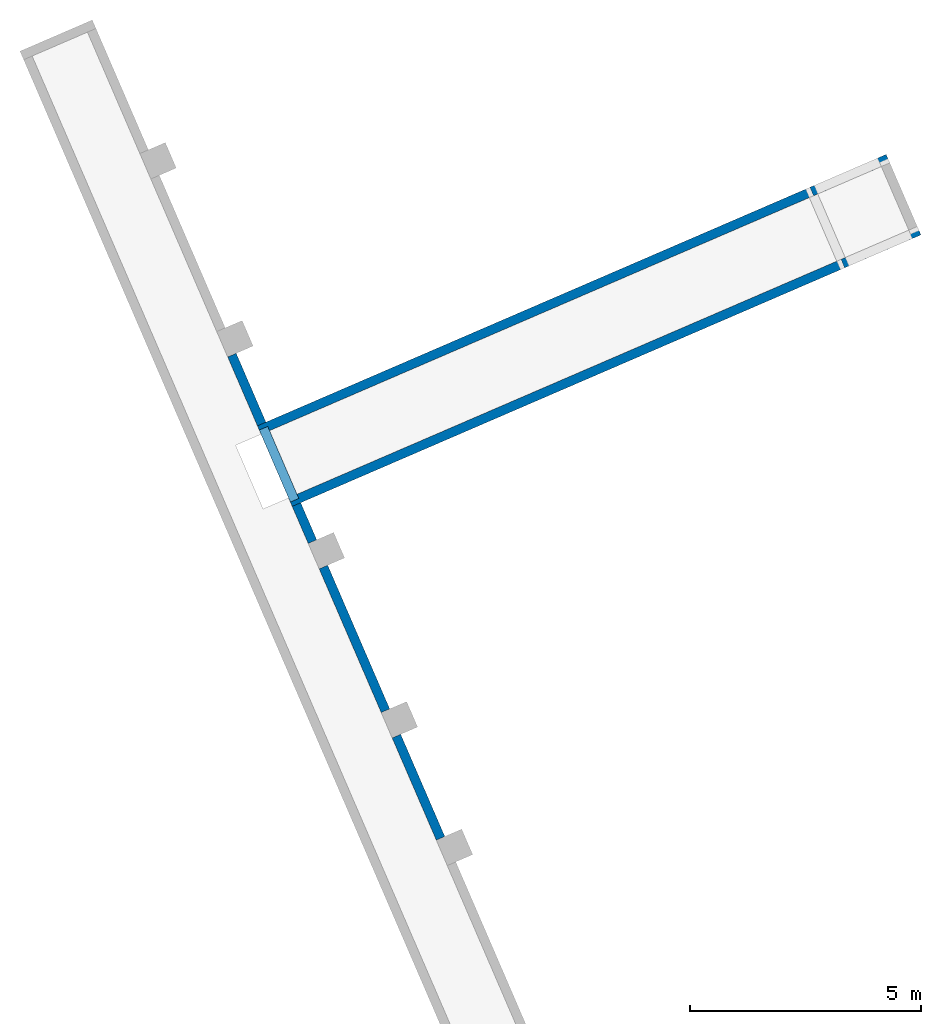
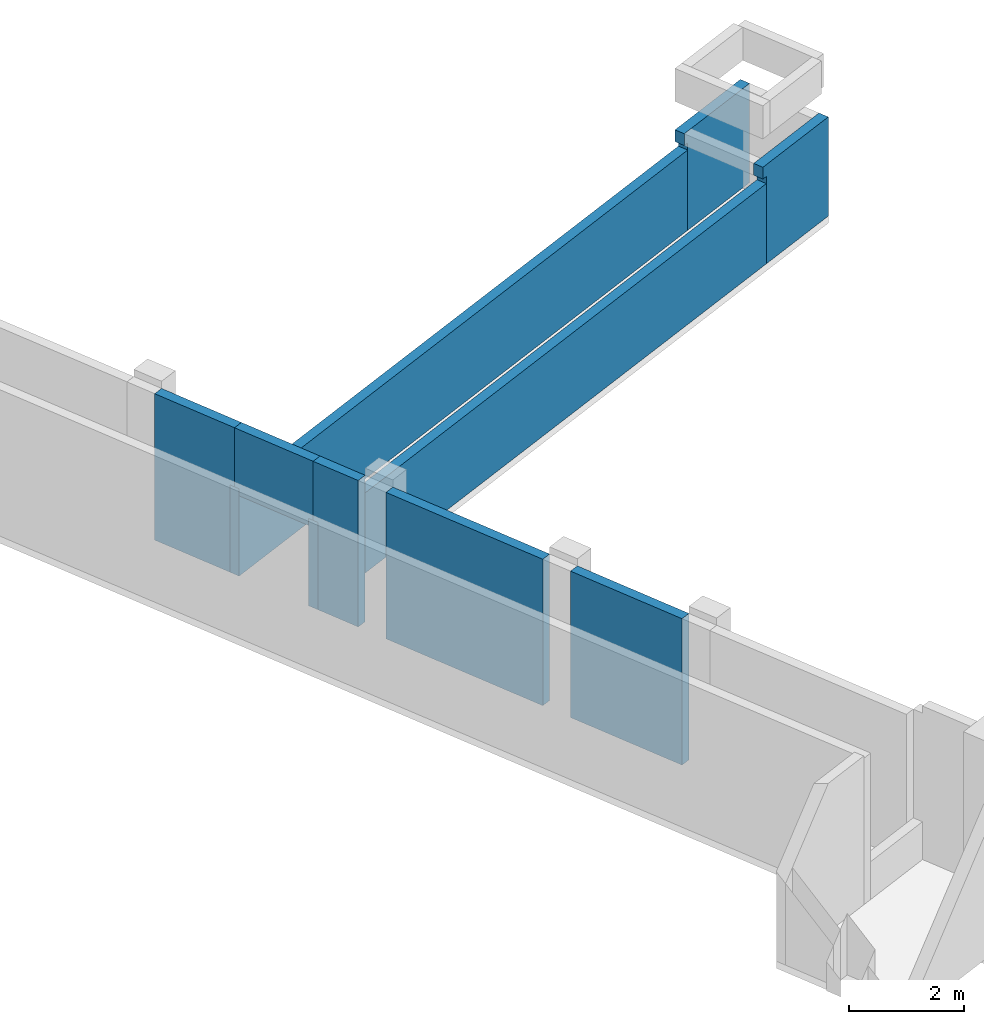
# One storey, part 2 of 2: 9 walls.
"""IFC4 building model written with IfcOpenShell, lengths in metres."""

from ifc_helpers import new_model, entity, si_unit, converted_unit, derived_unit, direction, frame, origin, place, context, subcontext, project, spatial, polygons, material, type_object, element, save


model = new_model("IFC4")

# Units and contexts
model_context = context("Model", 3, precision=1e-05, world=origin(), true_north=direction((6.123233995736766e-17, 1.0)))
body_context = subcontext(model_context, "Body", "Model", "MODEL_VIEW")
ifc_project = project(units=[si_unit("LENGTHUNIT", "METRE"), si_unit("AREAUNIT", "SQUARE_METRE"), si_unit("VOLUMEUNIT", "CUBIC_METRE"), converted_unit("PLANEANGLEUNIT", "DEGREE", entity("IfcPlaneAngleMeasure", 0.017453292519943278), si_unit("PLANEANGLEUNIT", "RADIAN"), dimensions=[0, 0, 0, 0, 0, 0, 0]), derived_unit("THERMALTRANSMITTANCEUNIT", [(si_unit("MASSUNIT", "GRAM", prefix="KILO"), 1), (si_unit("THERMODYNAMICTEMPERATUREUNIT", "KELVIN"), -1), (si_unit("TIMEUNIT", "SECOND"), -3)]), derived_unit("USERDEFINED", [(si_unit("MASSUNIT", "GRAM", prefix="KILO"), 1), (si_unit("THERMODYNAMICTEMPERATUREUNIT", "KELVIN"), -1), (si_unit("TIMEUNIT", "SECOND"), -2)]), derived_unit("THERMALRESISTANCEUNIT", [(si_unit("MASSUNIT", "GRAM", prefix="KILO"), -1), (si_unit("TIMEUNIT", "SECOND"), 3), (si_unit("THERMODYNAMICTEMPERATUREUNIT", "KELVIN"), 1)]), si_unit("MASSUNIT", "GRAM", prefix="KILO"), derived_unit("MOMENTOFINERTIAUNIT", [(si_unit("LENGTHUNIT", "METRE"), 4)]), derived_unit("LINEARFORCEUNIT", [(si_unit("MASSUNIT", "GRAM", prefix="KILO"), 1), (si_unit("TIMEUNIT", "SECOND"), -2)]), derived_unit("WARPINGCONSTANTUNIT", [(si_unit("LENGTHUNIT", "METRE"), 6)])], contexts=[model_context])

# Site, building, storey
site_placement = place(None, origin())
site = spatial("IfcSite", under=ifc_project, at=site_placement, Name="Default", CompositionType="ELEMENT")
building_placement = place(site_placement, frame((-21.752541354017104, -73.50235179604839, 317.2999999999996), z_axis=(0.0, 0.0, 1.0), x_axis=(-0.39637753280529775, 0.918087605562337, 0.0)))
building = spatial("IfcBuilding", under=site, at=building_placement, Name="CESFAM Coyhaique", CompositionType="ELEMENT")
storey_placement = place(building_placement, frame((0.0, 0.0, -3.7999999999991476)))
storey = spatial("IfcBuildingStorey", under=building, at=storey_placement, Name="Subterráneo 1", CompositionType="ELEMENT", Elevation=-3.7999999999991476)

# Walls
ifc_material = material(Name="HA")
wall_type = type_object("IfcWallType", Name="Basic Wall:Contención-HA_200mm", PredefinedType="STANDARD")
wall_1_placement = place(storey_placement, frame((2.5998933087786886, 2.1382581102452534, 0.0), z_axis=(0.0, 0.0, 1.0), x_axis=(0.0, -1.0, 0.0)))
element("IfcWall", 1, at=wall_1_placement, inside=storey, type_object=wall_type, material=ifc_material, Name="Basic Wall:Contención-HA_200mm", ObjectType="Basic Wall:Contención-HA_200mm", PredefinedType="NOTDEFINED", context=body_context, shape_type="Tessellation", body=[
    polygons([(0.0, -0.09999999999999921, -5.414335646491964e-16), (0.20000000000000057, -0.09999999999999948, -5.414335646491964e-16), (13.034875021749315, -0.09999999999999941, -5.414335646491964e-16), (13.034875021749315, -0.09999999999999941, 1.7), (0.19999999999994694, -0.10000000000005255, 1.7), (0.19999999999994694, -0.09999999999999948, 1.8499999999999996), (1.0828671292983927e-15, -0.09999999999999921, 1.8499999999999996), (13.034875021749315, 0.1000000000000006, -5.414335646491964e-16), (1.3535839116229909e-15, 0.1000000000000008, -5.414335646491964e-16), (1.0828671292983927e-15, 0.10000000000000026, 1.6999999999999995), (1.3535839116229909e-15, 0.1000000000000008, 1.8499999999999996), (0.19999999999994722, 0.10000000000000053, 1.8499999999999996), (0.19999999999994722, 0.10000000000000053, 1.7), (13.034875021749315, 0.1000000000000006, 1.7), (1.0828671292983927e-15, 5.1295095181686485e-15, 1.8499999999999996)], [[[1, 2, 3, 4, 5, 6, 7]], [[8, 9, 10, 11, 12, 13, 14]], [[3, 2, 1, 9, 8]], [[3, 8, 14, 4]], [[11, 15, 7, 6, 12]], [[7, 15, 11, 10, 9, 1]], [[13, 5, 4, 14]], [[5, 13, 12, 6]]], closed=True),
])
wall_2_placement = place(storey_placement, frame((4.299893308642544, 2.138258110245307, 0.0), z_axis=(0.0, 0.0, 1.0), x_axis=(0.0, -1.0, 0.0)))
element("IfcWall", 2, at=wall_2_placement, inside=storey, type_object=wall_type, material=ifc_material, Name="Basic Wall:Contención-HA_200mm", ObjectType="Basic Wall:Contención-HA_200mm", PredefinedType="NOTDEFINED", context=body_context, shape_type="Tessellation", body=[
    polygons([(-2.707167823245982e-16, -0.10000000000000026, -5.414335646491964e-16), (13.034875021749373, -0.1000000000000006, -5.414335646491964e-16), (13.034875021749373, -0.1000000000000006, 1.7), (0.20000000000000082, -0.10000000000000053, 1.7), (0.20000000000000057, -0.10000000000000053, 1.8499999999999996), (5.414335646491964e-16, -0.10000000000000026, 1.8499999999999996), (5.414335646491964e-16, -0.10000000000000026, 1.6999999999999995), (13.034875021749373, 0.09999999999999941, -5.414335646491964e-16), (0.2, 0.09999999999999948, -5.414335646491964e-16), (2.707167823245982e-16, 0.09999999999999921, -5.414335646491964e-16), (2.707167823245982e-16, 0.09999999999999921, 1.8499999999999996), (0.2000000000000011, 0.09999999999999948, 1.8499999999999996), (0.2000000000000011, 0.09999999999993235, 1.7), (13.034875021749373, 0.09999999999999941, 1.7), (5.414335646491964e-16, 2.8482612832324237e-16, 1.8499999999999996)], [[[1, 2, 3, 4, 5, 6, 7]], [[8, 9, 10, 11, 12, 13, 14]], [[2, 1, 10, 9, 8]], [[2, 8, 14, 3]], [[11, 15, 6, 5, 12]], [[6, 15, 11, 10, 1, 7]], [[13, 4, 3, 14]], [[4, 13, 12, 5]]], closed=True),
])
wall_3_placement = place(storey_placement, frame((4.299893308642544, 2.0382581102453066, 0.0)))
element("IfcWall", 3, at=wall_3_placement, inside=storey, type_object=wall_type, material=ifc_material, Name="Basic Wall:Contención-HA_200mm", ObjectType="Basic Wall:Contención-HA_200mm", PredefinedType="NOTDEFINED", context=body_context, shape_type="Tessellation", body=[
    polygons([(0.09999999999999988, -0.10000000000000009, 1.8500000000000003), (0.09999999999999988, -0.09999999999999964, 0.0), (1.7250000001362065, -0.09999999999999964, 0.0), (1.7250000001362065, -0.09999999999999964, 3.1000000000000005), (2.354192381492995e-16, -0.09999999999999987, 3.1000000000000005), (2.354192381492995e-16, -0.09999999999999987, 1.8500000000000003), (0.09999999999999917, 0.10000000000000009, 0.0), (0.10000000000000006, 0.10000000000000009, 1.8500000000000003), (4.1471290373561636e-16, 0.10000000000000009, 1.8500000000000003), (4.1471290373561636e-16, 0.10000000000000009, 3.1000000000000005), (1.7250000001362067, 0.10000000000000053, 3.1000000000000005), (1.7250000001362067, 0.10000000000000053, 0.0)], [[[1, 2, 3, 4, 5, 6]], [[7, 8, 9, 10, 11, 12]], [[3, 2, 7, 12]], [[4, 3, 12, 11]], [[5, 4, 11, 10]], [[6, 5, 10, 9]], [[6, 9, 8, 1]], [[1, 8, 7, 2]]], closed=True),
])
wall_4_placement = place(storey_placement, frame((2.599893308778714, -10.796616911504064, 0.0), z_axis=(0.0, 0.0, 1.0), x_axis=(0.0, -1.0, 0.0)))
element("IfcWall", 4, at=wall_4_placement, inside=storey, type_object=wall_type, material=ifc_material, Name="Basic Wall:Contención-HA_200mm", ObjectType="Basic Wall:Contención-HA_200mm", PredefinedType="NOTDEFINED", context=body_context, shape_type="Tessellation", body=[
    polygons([(0.09999999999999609, -0.10000000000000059, 0.0), (1.9001698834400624, -0.10000000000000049, 0.0), (1.900169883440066, -0.10000000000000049, 2.1000000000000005), (0.0, -0.10000000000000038, 2.1000000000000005), (0.0, -0.10000000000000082, 1.8500000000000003), (0.09999999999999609, -0.10000000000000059, 1.8500000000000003), (0.09999999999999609, 0.09999999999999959, 0.0), (0.09999999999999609, 0.09999999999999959, 1.8500000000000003), (0.0, 0.09999999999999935, 1.8500000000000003), (0.0, 0.0999999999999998, 2.1000000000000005), (0.1999999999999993, 0.09999999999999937, 2.1000000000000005), (1.700169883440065, 0.09999999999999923, 2.1000000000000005), (1.900169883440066, 0.09999999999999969, 2.1000000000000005), (1.900169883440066, 0.09999999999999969, 0.0), (1.700169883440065, 0.09999999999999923, 0.0)], [[[1, 2, 3, 4, 5, 6]], [[7, 8, 9, 10, 11, 12, 13, 14, 15]], [[2, 1, 7, 15, 14]], [[4, 3, 13, 12, 11, 10]], [[3, 2, 14, 13]], [[1, 6, 8, 7]], [[5, 9, 8, 6]], [[5, 4, 10, 9]]], closed=True),
])
wall_5_placement = place(storey_placement, frame((4.2998933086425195, -10.796616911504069, 0.0), z_axis=(0.0, 0.0, 1.0), x_axis=(0.0, -1.0, 0.0)))
element("IfcWall", 5, at=wall_5_placement, inside=storey, type_object=wall_type, material=ifc_material, Name="Basic Wall:Contención-HA_200mm", ObjectType="Basic Wall:Contención-HA_200mm", PredefinedType="NOTDEFINED", context=body_context, shape_type="Tessellation", body=[
    polygons([(0.09999999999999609, -0.10000000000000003, 0.0), (1.700169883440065, -0.09999999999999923, 0.0), (1.9001698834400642, -0.09999999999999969, 0.0), (1.9001698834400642, -0.09999999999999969, 2.0999999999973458), (1.700169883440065, -0.09999999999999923, 2.0999999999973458), (0.1999999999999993, -0.09999999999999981, 2.0999999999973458), (-1.7763568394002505e-15, -0.10000000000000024, 2.0999999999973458), (-1.7763568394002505e-15, -0.09999999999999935, 1.8500000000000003), (0.09999999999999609, -0.10000000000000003, 1.8500000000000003), (0.09999999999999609, 0.10000000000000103, 0.0), (0.09999999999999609, 0.10000000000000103, 1.8500000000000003), (-1.7763568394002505e-15, 0.10000000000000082, 1.8500000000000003), (-1.7763568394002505e-15, 0.10000000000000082, 2.0999999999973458), (1.9001698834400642, 0.10000000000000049, 2.0999999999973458), (1.9001698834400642, 0.10000000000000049, 0.0)], [[[1, 2, 3, 4, 5, 6, 7, 8, 9]], [[10, 11, 12, 13, 14, 15]], [[3, 2, 1, 10, 15]], [[7, 6, 5, 4, 14, 13]], [[4, 3, 15, 14]], [[1, 9, 11, 10]], [[8, 12, 11, 9]], [[8, 7, 13, 12]]], closed=True),
])
wall_6_placement = place(storey_placement, frame((2.5998933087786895, 2.038258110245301, 1.7000000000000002)))
element("IfcWall", 6, at=wall_6_placement, inside=storey, type_object=wall_type, material=ifc_material, Name="Basic Wall:Contención-HA_200mm", ObjectType="Basic Wall:Contención-HA_200mm", PredefinedType="NOTDEFINED", context=body_context, shape_type="Tessellation", body=[
    polygons([(0.09999999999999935, -0.09999999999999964, 4.440892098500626e-16), (1.599999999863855, -0.0999999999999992, 4.440892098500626e-16), (1.599999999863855, -0.0999999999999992, 0.15000000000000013), (1.6999999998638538, -0.09999999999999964, 0.15000000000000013), (1.6999999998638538, -0.09999999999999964, 1.4000000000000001), (-2.860852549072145e-16, -0.09999999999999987, 1.4000000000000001), (-2.860852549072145e-16, -0.09999999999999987, 0.15000000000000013), (0.09999999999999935, -0.09999999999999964, 0.15000000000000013), (0.09999999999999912, 0.10000000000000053, 4.440892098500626e-16), (0.09999999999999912, 0.10000000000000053, 0.15000000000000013), (-8.648740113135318e-17, 0.10000000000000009, 0.15000000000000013), (-8.648740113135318e-17, 0.10000000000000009, 1.4000000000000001), (0.10000000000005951, 0.10000000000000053, 1.4000000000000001), (1.5999999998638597, 0.10000000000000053, 1.4000000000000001), (1.699999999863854, 0.10000000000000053, 1.4000000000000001), (1.699999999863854, 0.10000000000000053, 0.15000000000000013), (1.5999999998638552, 0.10000000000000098, 0.15000000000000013), (1.5999999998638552, 0.10000000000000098, 4.440892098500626e-16)], [[[1, 2, 3, 4, 5, 6, 7, 8]], [[9, 10, 11, 12, 13, 14, 15, 16, 17, 18]], [[2, 1, 9, 18]], [[6, 5, 15, 14, 13, 12]], [[7, 6, 12, 11]], [[7, 11, 10, 8]], [[1, 8, 10, 9]], [[5, 4, 16, 15]], [[16, 4, 3, 17]], [[3, 2, 18, 17]]], closed=True),
])
wall_7_placement = place(storey_placement, frame((-5.375106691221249, 2.0382581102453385, 0.0)))
element("IfcWall", 7, at=wall_7_placement, inside=storey, type_object=wall_type, material=ifc_material, Name="Basic Wall:Contención-HA_200mm", ObjectType="Basic Wall:Contención-HA_200mm", PredefinedType="NOTDEFINED", context=body_context, shape_type="Tessellation", body=[
    polygons([(7.305300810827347e-16, -0.10000000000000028, 0.0), (2.410000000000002, -0.10000000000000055, 0.0), (2.410000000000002, -0.10000000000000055, 3.1), (7.305300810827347e-16, -0.10000000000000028, 3.1), (2.410000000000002, 0.09999999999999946, 0.0), (1.1066244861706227e-15, 0.09999999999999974, 0.0), (1.1066244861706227e-15, 0.09999999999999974, 3.1), (2.410000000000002, 0.09999999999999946, 3.1)], [[[1, 2, 3, 4]], [[5, 6, 7, 8]], [[6, 1, 4, 7]], [[2, 1, 6, 5]], [[4, 3, 8, 7]], [[2, 5, 8, 3]]], closed=True),
])
wall_8_placement = place(storey_placement, frame((1.624893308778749, 2.038258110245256, 0.0)))
element("IfcWall", 8, at=wall_8_placement, inside=storey, type_object=wall_type, material=ifc_material, Name="Basic Wall:Contención-HA_200mm", ObjectType="Basic Wall:Contención-HA_200mm", PredefinedType="NOTDEFINED", context=body_context, shape_type="Tessellation", body=[
    polygons([(-1.882016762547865e-16, -0.09999999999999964, 0.0), (0.8749999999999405, -0.09999999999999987, 0.0), (0.8749999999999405, -0.09999999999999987, 1.8500000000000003), (0.9749999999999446, -0.09999999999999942, 1.8500000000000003), (0.9749999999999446, -0.09999999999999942, 3.1000000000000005), (-1.882016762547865e-16, -0.09999999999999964, 3.1000000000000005), (0.8749999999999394, 0.10000000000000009, 0.0), (-6.7959807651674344e-18, 0.10000000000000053, 0.0), (-6.7959807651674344e-18, 0.10000000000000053, 3.1000000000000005), (0.9749999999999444, 0.10000000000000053, 3.1000000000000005), (0.9749999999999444, 0.10000000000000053, 1.8500000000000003), (0.8749999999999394, 0.10000000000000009, 1.8500000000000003)], [[[1, 2, 3, 4, 5, 6]], [[7, 8, 9, 10, 11, 12]], [[2, 1, 8, 7]], [[8, 1, 6, 9]], [[4, 11, 10, 5]], [[11, 4, 3, 12]], [[2, 7, 12, 3]], [[6, 5, 10, 9]]], closed=True),
])
wall_9_placement = place(storey_placement, frame((-2.3651066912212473, 2.03825811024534, 0.0)))
element("IfcWall", 9, at=wall_9_placement, inside=storey, type_object=wall_type, material=ifc_material, Name="Basic Wall:Contención-HA_200mm", ObjectType="Basic Wall:Contención-HA_200mm", PredefinedType="NOTDEFINED", context=body_context, shape_type="Tessellation", body=[
    polygons([(4.598132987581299e-16, -0.1, 0.0), (3.389999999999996, -0.1, 0.0), (3.389999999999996, -0.1, 3.1), (4.598132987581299e-16, -0.1, 3.1), (3.389999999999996, 0.1, 0.0), (2.3757356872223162e-17, 0.1, 0.0), (2.3757356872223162e-17, 0.1, 3.1), (0.7349999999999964, 0.10000000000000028, 3.1), (0.8549999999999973, 0.1, 3.1), (1.789999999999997, 0.1, 3.1), (3.389999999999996, 0.1, 3.1)], [[[1, 2, 3, 4]], [[5, 6, 7, 8, 9, 10, 11]], [[6, 1, 4, 7]], [[2, 1, 6, 5]], [[2, 5, 11, 3]], [[4, 3, 11, 10, 9, 8, 7]]], closed=True),
])

save(model, "model.ifc")
